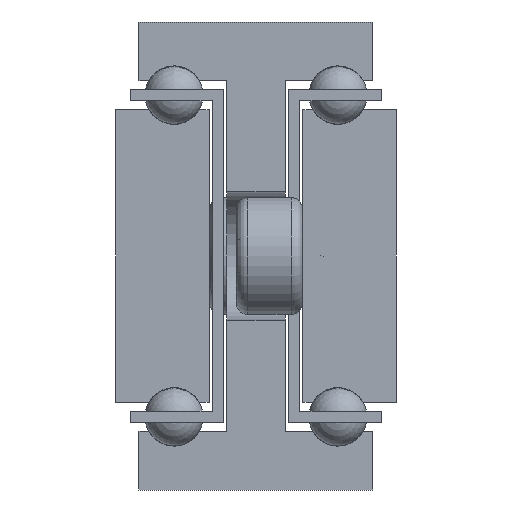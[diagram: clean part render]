
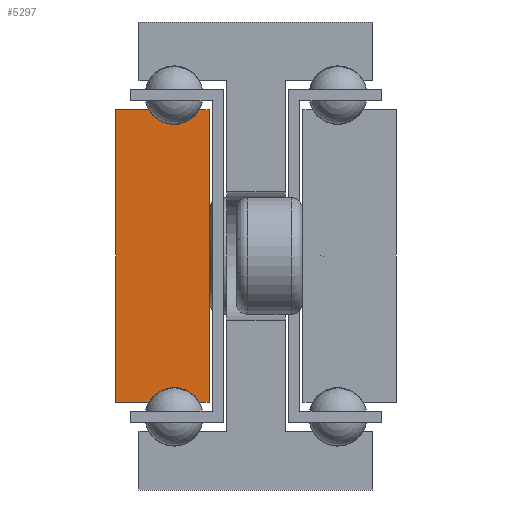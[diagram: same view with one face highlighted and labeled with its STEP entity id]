
A CAD part, front view. The second image highlights one B-rep face of the part: STEP entity #5297.
In plain terms, the highlighted planar face has unit normal (0, -1, 0).
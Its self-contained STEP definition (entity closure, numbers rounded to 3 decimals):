
#192=LINE('',#7636,#738);
#195=LINE('',#7642,#741);
#199=LINE('',#7654,#745);
#202=LINE('',#7660,#748);
#205=LINE('',#7666,#751);
#209=LINE('',#7676,#755);
#738=VECTOR('',#6158,1.);
#741=VECTOR('',#6163,1.);
#745=VECTOR('',#6175,1.);
#748=VECTOR('',#6180,1.);
#751=VECTOR('',#6185,1.);
#755=VECTOR('',#6197,1.);
#1289=PLANE('',#5687);
#1651=FACE_OUTER_BOUND('',#1987,.T.);
#1987=EDGE_LOOP('',(#3870,#3871,#3872,#3873,#3874,#3875,#3876,#3877));
#2427=CIRCLE('',#5678,2.5);
#2429=CIRCLE('',#5684,2.5);
#2574=VERTEX_POINT('',#7633);
#2575=VERTEX_POINT('',#7635);
#2577=VERTEX_POINT('',#7641);
#2579=VERTEX_POINT('',#7647);
#2581=VERTEX_POINT('',#7653);
#2583=VERTEX_POINT('',#7659);
#2585=VERTEX_POINT('',#7665);
#2587=VERTEX_POINT('',#7671);
#3116=EDGE_CURVE('',#2575,#2574,#192,.T.);
#3119=EDGE_CURVE('',#2577,#2575,#195,.T.);
#3122=EDGE_CURVE('',#2579,#2577,#2427,.T.);
#3125=EDGE_CURVE('',#2581,#2579,#199,.T.);
#3128=EDGE_CURVE('',#2583,#2581,#202,.T.);
#3131=EDGE_CURVE('',#2585,#2583,#205,.T.);
#3134=EDGE_CURVE('',#2587,#2585,#2429,.T.);
#3137=EDGE_CURVE('',#2574,#2587,#209,.T.);
#3870=ORIENTED_EDGE('',*,*,#3137,.T.);
#3871=ORIENTED_EDGE('',*,*,#3134,.T.);
#3872=ORIENTED_EDGE('',*,*,#3131,.T.);
#3873=ORIENTED_EDGE('',*,*,#3128,.T.);
#3874=ORIENTED_EDGE('',*,*,#3125,.T.);
#3875=ORIENTED_EDGE('',*,*,#3122,.T.);
#3876=ORIENTED_EDGE('',*,*,#3119,.T.);
#3877=ORIENTED_EDGE('',*,*,#3116,.T.);
#5297=ADVANCED_FACE('',(#1651),#1289,.T.);
#5678=AXIS2_PLACEMENT_3D('',#7648,#6169,#6170);
#5684=AXIS2_PLACEMENT_3D('',#7672,#6191,#6192);
#5687=AXIS2_PLACEMENT_3D('',#7678,#6200,#6201);
#6158=DIRECTION('',(0.,0.,-1.));
#6163=DIRECTION('',(-1.,0.,0.));
#6169=DIRECTION('center_axis',(0.,1.,0.));
#6170=DIRECTION('ref_axis',(-0.866,0.,-0.5));
#6175=DIRECTION('',(-1.,0.,0.));
#6180=DIRECTION('',(0.,0.,1.));
#6185=DIRECTION('',(1.,0.,0.));
#6191=DIRECTION('center_axis',(0.,1.,0.));
#6192=DIRECTION('ref_axis',(0.866,0.,0.5));
#6197=DIRECTION('',(1.,0.,0.));
#6200=DIRECTION('center_axis',(0.,-1.,0.));
#6201=DIRECTION('ref_axis',(1.,0.,0.));
#7633=CARTESIAN_POINT('',(1398.71,1701.429,237.5));
#7635=CARTESIAN_POINT('',(1398.71,1701.429,262.5));
#7636=CARTESIAN_POINT('',(1398.71,1701.429,237.5));
#7641=CARTESIAN_POINT('',(1401.545,1701.429,262.5));
#7642=CARTESIAN_POINT('',(1398.71,1701.429,262.5));
#7647=CARTESIAN_POINT('',(1405.875,1701.429,262.5));
#7648=CARTESIAN_POINT('Origin',(1403.71,1701.429,263.75));
#7653=CARTESIAN_POINT('',(1406.71,1701.429,262.5));
#7654=CARTESIAN_POINT('',(1405.875,1701.429,262.5));
#7659=CARTESIAN_POINT('',(1406.71,1701.429,237.5));
#7660=CARTESIAN_POINT('',(1406.71,1701.429,262.5));
#7665=CARTESIAN_POINT('',(1405.875,1701.429,237.5));
#7666=CARTESIAN_POINT('',(1406.71,1701.429,237.5));
#7671=CARTESIAN_POINT('',(1401.545,1701.429,237.5));
#7672=CARTESIAN_POINT('Origin',(1403.71,1701.429,236.25));
#7676=CARTESIAN_POINT('',(1401.545,1701.429,237.5));
#7678=CARTESIAN_POINT('Origin',(1402.698,1701.429,250.));
